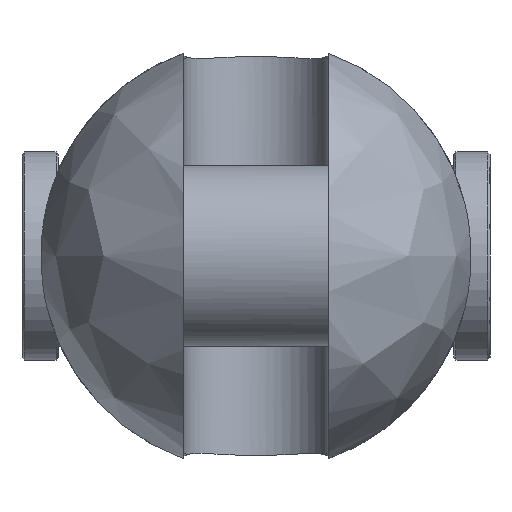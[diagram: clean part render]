
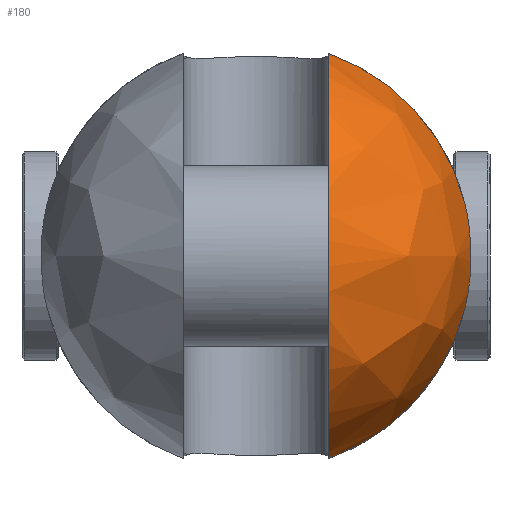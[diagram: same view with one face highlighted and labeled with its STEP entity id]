
A CAD part, left-side view. The second image highlights one B-rep face of the part: STEP entity #180.
In plain terms, the highlighted free-form (B-spline) face has degree [2, 2] with [9, 5] control points.
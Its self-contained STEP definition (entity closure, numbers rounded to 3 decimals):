
#180=ADVANCED_FACE('',(#322),#2440,.T.);
#322=FACE_OUTER_BOUND('',#484,.T.);
#484=EDGE_LOOP('',(#1205,#1206,#1207,#1208));
#1205=ORIENTED_EDGE('',*,*,#1594,.T.);
#1206=ORIENTED_EDGE('',*,*,#1618,.F.);
#1207=ORIENTED_EDGE('',*,*,#1630,.T.);
#1208=ORIENTED_EDGE('',*,*,#1610,.F.);
#1594=EDGE_CURVE('',#2271,#2270,#2002,.T.);
#1610=EDGE_CURVE('',#2271,#2283,#2012,.T.);
#1618=EDGE_CURVE('',#2290,#2270,#2013,.T.);
#1630=EDGE_CURVE('',#2290,#2283,#1805,.T.);
#1805=B_SPLINE_CURVE_WITH_KNOTS('',3,(#6234,#6235,#6236,#6237,#6238,#6239,
#6240,#6241,#6242,#6243,#6244,#6245,#6246,#6247),.UNSPECIFIED.,.F.,.F.,
(4,2,2,2,2,2,4),(0.,1.507,6.88,12.253,
17.626,22.999,24.507),.UNSPECIFIED.);
#2002=(
BOUNDED_CURVE()
B_SPLINE_CURVE(2,(#6010,#6011,#6012,#6013,#6014),.UNSPECIFIED.,.F.,.F.)
B_SPLINE_CURVE_WITH_KNOTS((3,2,3),(-140.505,-70.253,
0.),.UNSPECIFIED.)
CURVE()
GEOMETRIC_REPRESENTATION_ITEM()
RATIONAL_B_SPLINE_CURVE((1.,0.707,1.,0.707,1.))
REPRESENTATION_ITEM('')
);
#2012=(
BOUNDED_CURVE()
B_SPLINE_CURVE(2,(#6104,#6105,#6106),.UNSPECIFIED.,.F.,.F.)
B_SPLINE_CURVE_WITH_KNOTS((3,3),(0.,46.556),.UNSPECIFIED.)
CURVE()
GEOMETRIC_REPRESENTATION_ITEM()
RATIONAL_B_SPLINE_CURVE((1.,0.882,1.))
REPRESENTATION_ITEM('')
);
#2013=(
BOUNDED_CURVE()
B_SPLINE_CURVE(2,(#6161,#6162,#6163),.UNSPECIFIED.,.F.,.F.)
B_SPLINE_CURVE_WITH_KNOTS((3,3),(0.,46.556),.UNSPECIFIED.)
CURVE()
GEOMETRIC_REPRESENTATION_ITEM()
RATIONAL_B_SPLINE_CURVE((1.,0.882,1.))
REPRESENTATION_ITEM('')
);
#2270=VERTEX_POINT('',#5870);
#2271=VERTEX_POINT('',#5871);
#2283=VERTEX_POINT('',#5883);
#2290=VERTEX_POINT('',#5890);
#2440=(
BOUNDED_SURFACE()
B_SPLINE_SURFACE(2,2,((#5584,#5585,#5586,#5587,#5588),(#5589,#5590,#5591,
#5592,#5593),(#5594,#5595,#5596,#5597,#5598),(#5599,#5600,#5601,#5602,#5603),
(#5604,#5605,#5606,#5607,#5608),(#5609,#5610,#5611,#5612,#5613),(#5614,
#5615,#5616,#5617,#5618),(#5619,#5620,#5621,#5622,#5623),(#5624,#5625,#5626,
#5627,#5628)),.UNSPECIFIED.,.T.,.F.,.F.)
B_SPLINE_SURFACE_WITH_KNOTS((3,2,2,2,3),(3,2,3),(0.,74.613,149.226,
223.838,298.451),(0.,74.613,149.226),
 .UNSPECIFIED.)
GEOMETRIC_REPRESENTATION_ITEM()
RATIONAL_B_SPLINE_SURFACE(((1.,0.707,1.,0.707,1.),
(0.707,0.5,0.707,0.5,0.707),(1.,0.707,
1.,0.707,1.),(0.707,0.5,0.707,0.5,0.707),
(1.,0.707,1.,0.707,1.),(0.707,0.5,0.707,
0.5,0.707),(1.,0.707,1.,0.707,1.),(0.707,
0.5,0.707,0.5,0.707),(1.,0.707,1.,0.707,
1.)))
REPRESENTATION_ITEM('')
SURFACE()
);
#5584=CARTESIAN_POINT('',(-68.5,0.,0.));
#5585=CARTESIAN_POINT('',(-68.5,47.5,0.));
#5586=CARTESIAN_POINT('',(-21.,47.5,0.));
#5587=CARTESIAN_POINT('',(26.5,47.5,0.));
#5588=CARTESIAN_POINT('',(26.5,0.,0.));
#5589=CARTESIAN_POINT('',(-68.5,0.,0.));
#5590=CARTESIAN_POINT('',(-68.5,47.5,47.5));
#5591=CARTESIAN_POINT('',(-21.,47.5,47.5));
#5592=CARTESIAN_POINT('',(26.5,47.5,47.5));
#5593=CARTESIAN_POINT('',(26.5,0.,0.));
#5594=CARTESIAN_POINT('',(-68.5,0.,0.));
#5595=CARTESIAN_POINT('',(-68.5,0.,47.5));
#5596=CARTESIAN_POINT('',(-21.,0.,47.5));
#5597=CARTESIAN_POINT('',(26.5,0.,47.5));
#5598=CARTESIAN_POINT('',(26.5,0.,0.));
#5599=CARTESIAN_POINT('',(-68.5,0.,0.));
#5600=CARTESIAN_POINT('',(-68.5,-47.5,47.5));
#5601=CARTESIAN_POINT('',(-21.,-47.5,47.5));
#5602=CARTESIAN_POINT('',(26.5,-47.5,47.5));
#5603=CARTESIAN_POINT('',(26.5,0.,0.));
#5604=CARTESIAN_POINT('',(-68.5,0.,0.));
#5605=CARTESIAN_POINT('',(-68.5,-47.5,0.));
#5606=CARTESIAN_POINT('',(-21.,-47.5,0.));
#5607=CARTESIAN_POINT('',(26.5,-47.5,0.));
#5608=CARTESIAN_POINT('',(26.5,0.,0.));
#5609=CARTESIAN_POINT('',(-68.5,0.,0.));
#5610=CARTESIAN_POINT('',(-68.5,-47.5,-47.5));
#5611=CARTESIAN_POINT('',(-21.,-47.5,-47.5));
#5612=CARTESIAN_POINT('',(26.5,-47.5,-47.5));
#5613=CARTESIAN_POINT('',(26.5,0.,0.));
#5614=CARTESIAN_POINT('',(-68.5,0.,0.));
#5615=CARTESIAN_POINT('',(-68.5,0.,-47.5));
#5616=CARTESIAN_POINT('',(-21.,0.,-47.5));
#5617=CARTESIAN_POINT('',(26.5,0.,-47.5));
#5618=CARTESIAN_POINT('',(26.5,0.,0.));
#5619=CARTESIAN_POINT('',(-68.5,0.,0.));
#5620=CARTESIAN_POINT('',(-68.5,47.5,-47.5));
#5621=CARTESIAN_POINT('',(-21.,47.5,-47.5));
#5622=CARTESIAN_POINT('',(26.5,47.5,-47.5));
#5623=CARTESIAN_POINT('',(26.5,0.,0.));
#5624=CARTESIAN_POINT('',(-68.5,0.,0.));
#5625=CARTESIAN_POINT('',(-68.5,47.5,0.));
#5626=CARTESIAN_POINT('',(-21.,47.5,0.));
#5627=CARTESIAN_POINT('',(26.5,47.5,0.));
#5628=CARTESIAN_POINT('',(26.5,0.,0.));
#5870=CARTESIAN_POINT('',(-21.,-16.,-44.724));
#5871=CARTESIAN_POINT('',(-21.,-16.,44.724));
#5883=CARTESIAN_POINT('',(-21.,-46.057,11.619));
#5890=CARTESIAN_POINT('',(-21.,-46.057,-11.619));
#6010=CARTESIAN_POINT('',(-21.,-16.,44.724));
#6011=CARTESIAN_POINT('',(-65.724,-16.,44.724));
#6012=CARTESIAN_POINT('',(-65.724,-16.,0.));
#6013=CARTESIAN_POINT('',(-65.724,-16.,-44.724));
#6014=CARTESIAN_POINT('',(-21.,-16.,-44.724));
#6104=CARTESIAN_POINT('',(-21.,-16.,44.724));
#6105=CARTESIAN_POINT('',(-21.,-39.859,36.189));
#6106=CARTESIAN_POINT('',(-21.,-46.057,11.619));
#6161=CARTESIAN_POINT('',(-21.,-46.057,-11.619));
#6162=CARTESIAN_POINT('',(-21.,-39.859,-36.189));
#6163=CARTESIAN_POINT('',(-21.,-16.,-44.724));
#6234=CARTESIAN_POINT('',(-21.,-46.057,-11.619));
#6235=CARTESIAN_POINT('',(-21.24,-46.167,-11.184));
#6236=CARTESIAN_POINT('',(-21.468,-46.27,-10.741));
#6237=CARTESIAN_POINT('',(-22.444,-46.712,-8.684));
#6238=CARTESIAN_POINT('',(-23.032,-46.975,-6.978));
#6239=CARTESIAN_POINT('',(-23.81,-47.321,-3.501));
#6240=CARTESIAN_POINT('',(-24.,-47.405,-1.73));
#6241=CARTESIAN_POINT('',(-24.,-47.405,1.73));
#6242=CARTESIAN_POINT('',(-23.81,-47.321,3.501));
#6243=CARTESIAN_POINT('',(-23.032,-46.975,6.978));
#6244=CARTESIAN_POINT('',(-22.444,-46.712,8.684));
#6245=CARTESIAN_POINT('',(-21.468,-46.27,10.741));
#6246=CARTESIAN_POINT('',(-21.24,-46.167,11.184));
#6247=CARTESIAN_POINT('',(-21.,-46.057,11.619));
